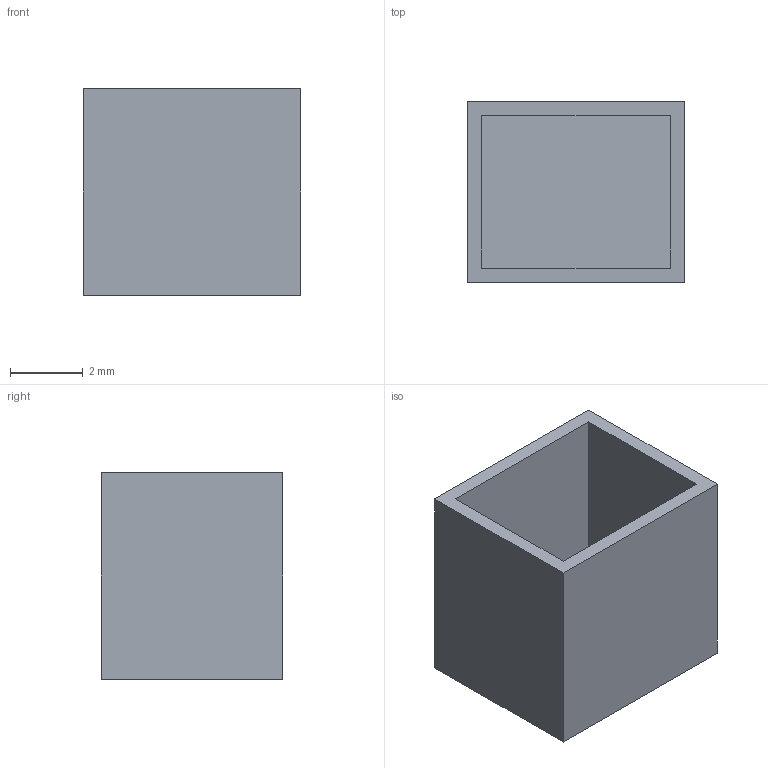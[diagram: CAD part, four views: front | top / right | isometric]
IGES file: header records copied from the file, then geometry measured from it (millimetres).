
Start section:  PTC IGES file: j3bs-cn4.igs
Global section: file name: j3bs-cn4.igs; native system: Pro/ENGINEER by Parametric Technology Corporation; preprocessor: 2006420; author: JE18792; organization: Unknown; date: 20101129.152803; units: millimetre
Bounding box: 6 x 5 x 5.7 mm (x, y, z)
Volume: 55.2 mm3; surface area: 285 mm2
Topology: 1 solids, 1 shells, 11 faces, 24 edges, 16 vertices
Faces by surface type: bspline 11
